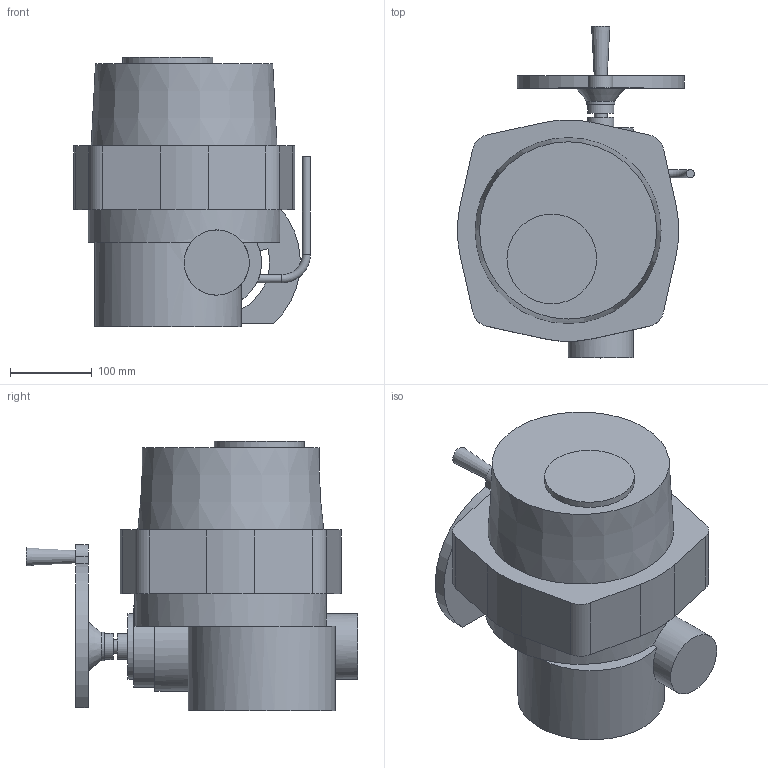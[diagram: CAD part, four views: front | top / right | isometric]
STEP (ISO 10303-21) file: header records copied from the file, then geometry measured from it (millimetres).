
FILE_DESCRIPTION(('STEP AP203'), '1');
FILE_NAME('Ýëåêòðîïðèâîä QT.A 120 áåç áëîêà óïðàâëåíèÿ', '', ('UNSPECIFIED'), ('UNSPECIFIED'), 'ASCON STEP Converter 1.6', 'ASCON Math Kernel', '');
FILE_SCHEMA(('CONFIG_CONTROL_DESIGN'));
Length unit declared in the file: millimetre
Bounding box: 290.64 x 407 x 331 mm (x, y, z)
Volume: 14718026.1 mm3; surface area: 483756 mm2
Topology: 1 solids, 1 shells, 89 faces, 197 edges, 130 vertices
Faces by surface type: plane 46, cylinder 39, cone 3, torus 1
Full cylindrical faces by diameter (mm): 10 x6, 14 x4, 16 x1, 32 x2, 35 x1, 40 x1, 80 x2, 100 x1, 110 x1, 180 x1, 235 x1
Entity records: 3694 total; most frequent: CARTESIAN_POINT 977, DIRECTION 431, ORIENTED_EDGE 344, AXIS2_PLACEMENT_3D 177, EDGE_CURVE 172, EDGE_LOOP 140, VERTEX_POINT 130, FACE_BOUND 94
